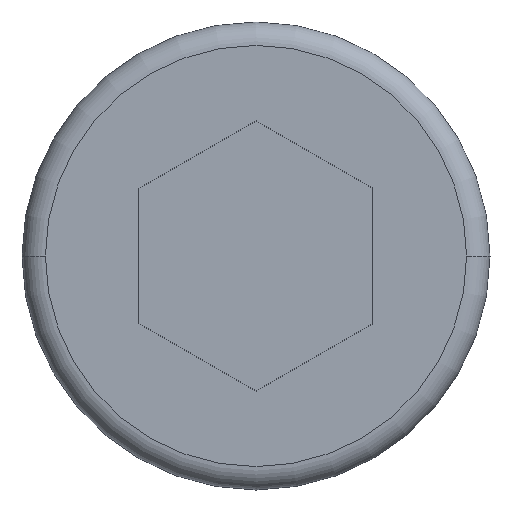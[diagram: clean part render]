
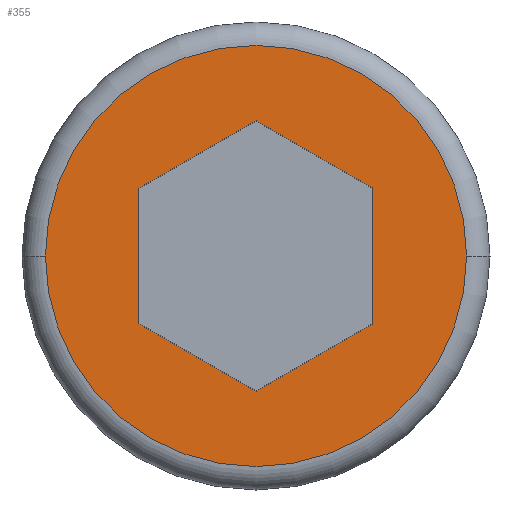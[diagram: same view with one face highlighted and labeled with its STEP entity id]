
A CAD part, left-side view. The second image highlights one B-rep face of the part: STEP entity #355.
In plain terms, the highlighted planar face has unit normal (-1, 0, 0).
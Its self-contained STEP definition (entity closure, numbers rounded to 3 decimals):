
#48=CARTESIAN_POINT('',(0.,0.,0.));
#49=DIRECTION('',(1.,0.,0.));
#50=DIRECTION('',(0.,1.,0.));
#51=AXIS2_PLACEMENT_3D('',#48,#49,#50);
#58=DIRECTION('',(0.,0.866,0.5));
#59=VECTOR('',#58,2.887);
#60=CARTESIAN_POINT('',(0.,-2.5,1.443));
#61=LINE('',#60,#59);
#62=DIRECTION('',(0.,0.866,-0.5));
#63=VECTOR('',#62,2.887);
#64=CARTESIAN_POINT('',(0.,0.,2.887));
#65=LINE('',#64,#63);
#66=DIRECTION('',(0.,0.,-1.));
#67=VECTOR('',#66,2.887);
#68=CARTESIAN_POINT('',(0.,2.5,1.443));
#69=LINE('',#68,#67);
#70=DIRECTION('',(0.,-0.866,-0.5));
#71=VECTOR('',#70,2.887);
#72=CARTESIAN_POINT('',(0.,2.5,-1.443));
#73=LINE('',#72,#71);
#74=DIRECTION('',(0.,-0.866,0.5));
#75=VECTOR('',#74,2.887);
#76=CARTESIAN_POINT('',(0.,0.,-2.887));
#77=LINE('',#76,#75);
#78=DIRECTION('',(0.,0.,1.));
#79=VECTOR('',#78,2.887);
#80=CARTESIAN_POINT('',(0.,-2.5,-1.443));
#81=LINE('',#80,#79);
#82=CARTESIAN_POINT('',(0.,0.,0.));
#83=DIRECTION('',(-1.,0.,0.));
#84=DIRECTION('',(0.,1.,0.));
#85=AXIS2_PLACEMENT_3D('',#82,#83,#84);
#184=CARTESIAN_POINT('',(0.,4.5,0.));
#185=CARTESIAN_POINT('',(0.,-4.5,0.));
#186=VERTEX_POINT('',#184);
#187=VERTEX_POINT('',#185);
#204=CARTESIAN_POINT('',(0.,-2.5,1.443));
#205=CARTESIAN_POINT('',(0.,0.,2.887));
#206=VERTEX_POINT('',#204);
#207=VERTEX_POINT('',#205);
#208=CARTESIAN_POINT('',(0.,2.5,1.443));
#209=VERTEX_POINT('',#208);
#210=CARTESIAN_POINT('',(0.,2.5,-1.443));
#211=VERTEX_POINT('',#210);
#212=CARTESIAN_POINT('',(0.,0.,-2.887));
#213=VERTEX_POINT('',#212);
#214=CARTESIAN_POINT('',(0.,-2.5,-1.443));
#215=VERTEX_POINT('',#214);
#331=CARTESIAN_POINT('',(0.,0.,0.));
#332=DIRECTION('',(-1.,0.,0.));
#333=DIRECTION('',(0.,1.,0.));
#334=AXIS2_PLACEMENT_3D('',#331,#332,#333);
#335=PLANE('',#334);
#336=ORIENTED_EDGE('',*,*,#321,.T.);
#338=ORIENTED_EDGE('',*,*,#337,.F.);
#339=EDGE_LOOP('',(#336,#338));
#340=FACE_OUTER_BOUND('',#339,.F.);
#342=ORIENTED_EDGE('',*,*,#341,.T.);
#344=ORIENTED_EDGE('',*,*,#343,.T.);
#346=ORIENTED_EDGE('',*,*,#345,.T.);
#348=ORIENTED_EDGE('',*,*,#347,.T.);
#350=ORIENTED_EDGE('',*,*,#349,.T.);
#352=ORIENTED_EDGE('',*,*,#351,.T.);
#353=EDGE_LOOP('',(#342,#344,#346,#348,#350,#352));
#354=FACE_BOUND('',#353,.F.);
#355=ADVANCED_FACE('',(#340,#354),#335,.T.);
#52=CIRCLE('',#51,4.5);
#86=CIRCLE('',#85,4.5);
#321=EDGE_CURVE('',#186,#187,#52,.T.);
#337=EDGE_CURVE('',#186,#187,#86,.T.);
#341=EDGE_CURVE('',#206,#207,#61,.T.);
#343=EDGE_CURVE('',#207,#209,#65,.T.);
#345=EDGE_CURVE('',#209,#211,#69,.T.);
#347=EDGE_CURVE('',#211,#213,#73,.T.);
#349=EDGE_CURVE('',#213,#215,#77,.T.);
#351=EDGE_CURVE('',#215,#206,#81,.T.);
